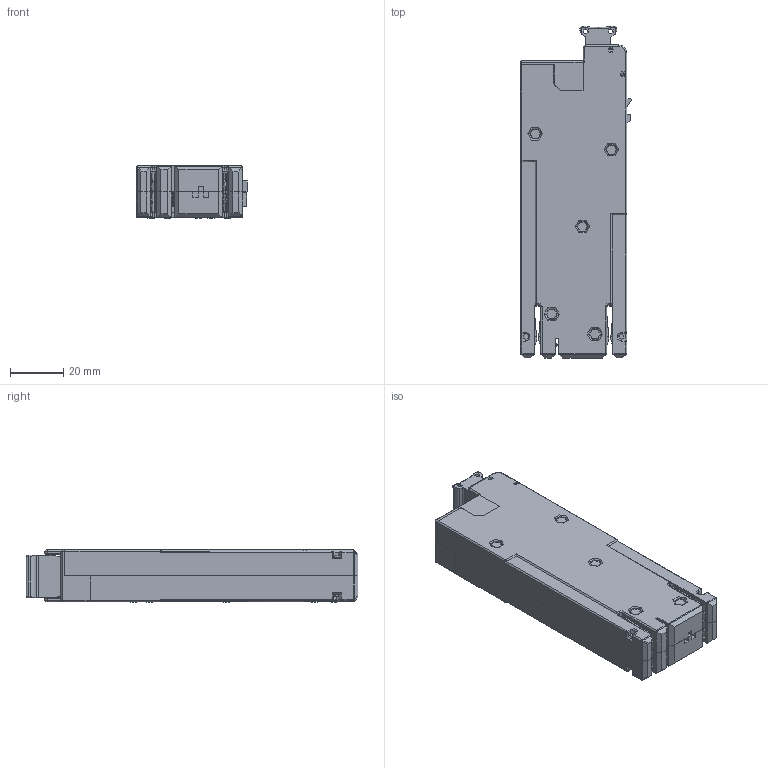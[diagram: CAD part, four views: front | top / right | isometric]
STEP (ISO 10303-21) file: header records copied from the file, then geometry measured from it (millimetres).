
FILE_DESCRIPTION (( 'STEP AP203' ), '1' );
FILE_NAME ('NDB6AZ-63H-63-1PN.STEP', '2020-10-28T03:30:43', ( '' ), ( '' ), 'SwSTEP 2.0', 'SolidWorks 2018', '' );
FILE_SCHEMA (( 'CONFIG_CONTROL_DESIGN' ));
Length unit declared in the file: millimetre
Products named in the file (16): 8LD.253.1348.STEP; 8LD.885.1062.STEP; 8LD.285.1041; 8LD.967.1036.STEP; 8LD.024.1375.STEP; 8LD.024.1376.STEP; 8LD.585.1261; 5LD.024.1261.STEP; 8LD.441.1059.STEP; 8LD.885.1063; 8LD.206.1383.STEP; 8LD.967.1034.STEP; NDB6AZ-63H-63-1PN; 8LD.315.1388.STEP; 8LD.315.1199.STEP; 8LD.585.0003.STEP
Assembly tree (22 placements, depth 3):
  NDB6AZ-63H-63-1PN
    5LD.024.1261.STEP
      8LD.024.1375.STEP
      8LD.315.1388.STEP
    8LD.253.1348.STEP
    8LD.885.1062.STEP
    8LD.585.0003.STEP
    8LD.441.1059.STEP
    8LD.967.1034.STEP  x5
    8LD.315.1199.STEP
    8LD.967.1036.STEP  x2
    8LD.024.1376.STEP
    8LD.206.1383.STEP
    8LD.585.1261  x2
    8LD.285.1041  x2
    8LD.885.1063
Bounding box: 41.72 x 125.11 x 19.7 mm (x, y, z)
Topology: 22 solids, 25 shells, 3092 faces, 8335 edges, 5296 vertices
Faces by surface type: plane 2025, cylinder 787, cone 117, torus 101, bspline 42, sphere 20
Entity records: 91459 total; most frequent: CARTESIAN_POINT 17944, ORIENTED_EDGE 15314, DIRECTION 14592, EDGE_CURVE 7657, LINE 5730, VECTOR 5730, VERTEX_POINT 4922, AXIS2_PLACEMENT_3D 4431
